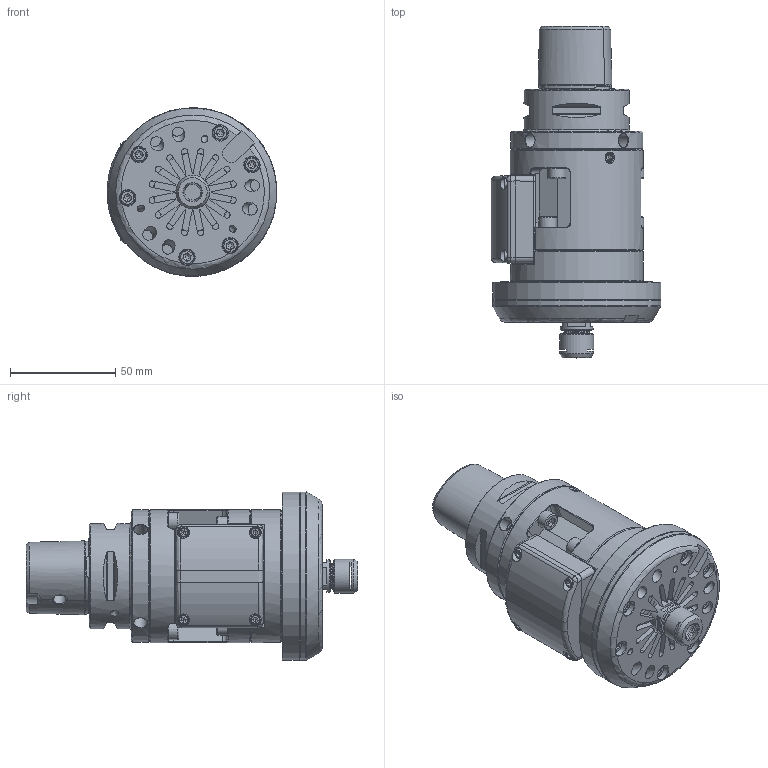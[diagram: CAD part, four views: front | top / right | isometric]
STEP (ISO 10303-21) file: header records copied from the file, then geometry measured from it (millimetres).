
FILE_DESCRIPTION (( 'STEP AP214' ), '1' );
FILE_NAME ('TJS HPC V4 C5.STEP', '2025-06-09T13:01:28', ( 'pc' ), ( '' ), 'SwSTEP 2.0', 'SolidWorks 2024', '' );
FILE_SCHEMA (( 'AUTOMOTIVE_DESIGN' ));
Length unit declared in the file: millimetre
Products named in the file (1): TJS HPC V4 C5
Bounding box: 80.35 x 157.4 x 79.82 mm (x, y, z)
Volume: 235201.5 mm3; surface area: 105111.5 mm2
Topology: 31 solids, 31 shells, 1533 faces, 3674 edges, 2244 vertices
Faces by surface type: plane 763, cylinder 368, cone 234, torus 96, bspline 72
Full cylindrical faces by diameter (mm): 2.5 x6, 3 x3, 3.3 x12, 4 x6, 4.2 x11, 4.3 x8, 4.5 x5, 5 x22, 5.5 x3, 5.8 x3, 6 x11, 6.1 x2, 6.4 x4, 6.5 x1, 7 x6, 7.4 x6, 7.5 x1, 7.65 x1, 8 x4, 8.5 x6, 11.21 x1, 11.3 x1, 12 x1, 12.2 x1, 12.3 x1, 13 x1, 13.2 x1, 14.5 x1, 15.5 x1, 16 x1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
Entity records: 57695 total; most frequent: CARTESIAN_POINT 24442, DIRECTION 6740, ORIENTED_EDGE 6338, EDGE_CURVE 3169, AXIS2_PLACEMENT_3D 2519, VERTEX_POINT 2118, EDGE_LOOP 2067, FACE_OUTER_BOUND 1738
